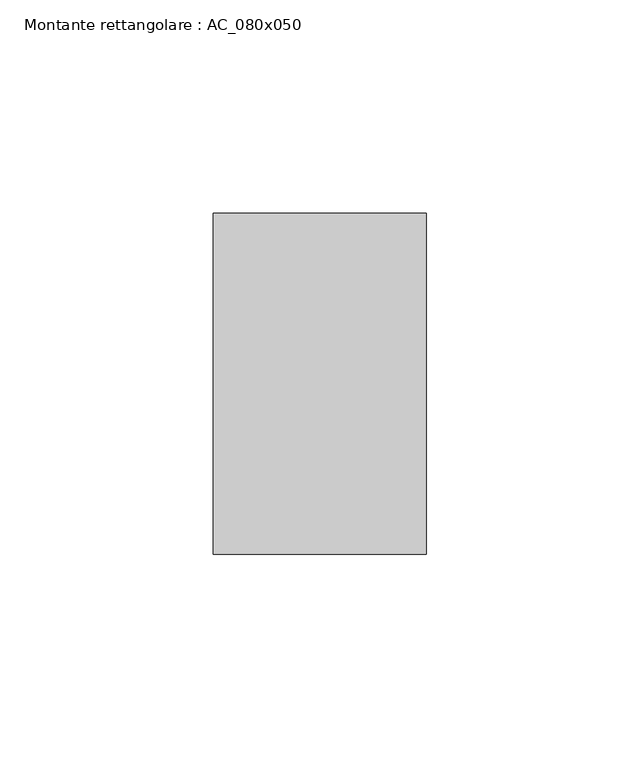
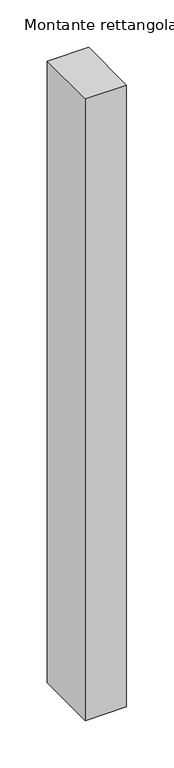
"""IFC4 building model written with IfcOpenShell, lengths in millimetres: member geometry, Montante rettangolare : AC_080x050."""

from ifc_helpers import new_model, si_unit, frame, origin, place, context, project, spatial, polyline, outline, extrude, source, transform, mapped, element, save


def montante_rettangolare_ac_080x050_48d6a012(model_context):
    return source(origin(), model_context, "Body", "SweptSolid", [
        extrude(outline(polyline([(0.0, 40.0), (0.0, -40.0), (-50.0, -40.0), (-50.0, 40.0), (0.0, 40.0)])), frame((0.0, 0.0, -800.0), z_axis=(0.0, 0.0, 1.0), x_axis=(1.0, 0.0, 0.0)), (0.0, 0.0, 1.0), 800.0),
    ])


if __name__ == "__main__":
    model = new_model("IFC4")
    model_context = context("Model", 3, world=origin())
    ifc_project = project(units=[si_unit("LENGTHUNIT", "METRE", prefix="MILLI")], contexts=[model_context])
    site = spatial("IfcSite", under=ifc_project)
    building = spatial("IfcBuilding", under=site)
    placement = place(None, origin())
    montante_rettangolare_ac_080x050_shape = montante_rettangolare_ac_080x050_48d6a012(model_context)
    element("IfcMember", 1, ObjectType="Montante rettangolare : AC_080x050", at=placement, inside=building, context=model_context, shape_type="MappedRepresentation", body=[
        mapped(montante_rettangolare_ac_080x050_shape, transform((0.0, 0.0, 0.0), x_axis=(1.0, 0.0, 0.0), y_axis=(0.0, 1.0, 0.0), z_axis=(0.0, 0.0, 1.0))),
    ])
    save(model, "model.ifc")
